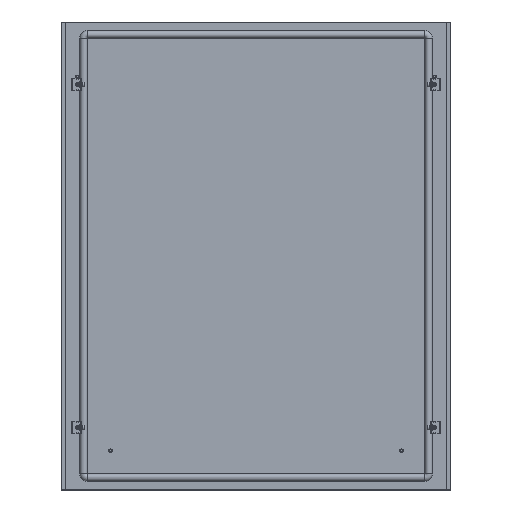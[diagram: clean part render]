
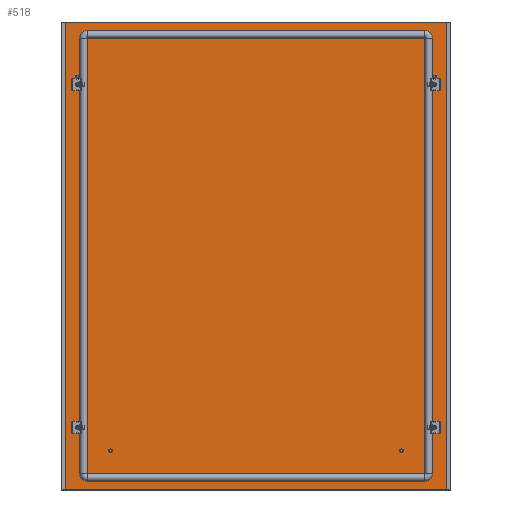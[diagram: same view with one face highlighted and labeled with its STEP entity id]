
A CAD part, top view. The second image highlights one B-rep face of the part: STEP entity #518.
In plain terms, the highlighted planar face has unit normal (0, 0, 1).
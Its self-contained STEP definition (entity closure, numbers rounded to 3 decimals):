
#226 = VERTEX_POINT('',#227);
#227 = CARTESIAN_POINT('',(395.5,-477.5,0.));
#260 = VERTEX_POINT('',#261);
#261 = CARTESIAN_POINT('',(395.5,477.5,0.));
#267 = EDGE_CURVE('',#226,#260,#268,.T.);
#268 = LINE('',#269,#270);
#269 = CARTESIAN_POINT('',(395.5,0.,0.));
#270 = VECTOR('',#271,1.);
#271 = DIRECTION('',(-0.,1.,-0.));
#360 = EDGE_CURVE('',#226,#361,#363,.T.);
#361 = VERTEX_POINT('',#362);
#362 = CARTESIAN_POINT('',(395.3,-477.5,0.));
#363 = LINE('',#364,#365);
#364 = CARTESIAN_POINT('',(0.,-477.5,0.
    ));
#365 = VECTOR('',#366,1.);
#366 = DIRECTION('',(-1.,0.,0.));
#385 = VERTEX_POINT('',#386);
#386 = CARTESIAN_POINT('',(-395.3,-477.5,0.));
#392 = EDGE_CURVE('',#393,#385,#395,.T.);
#393 = VERTEX_POINT('',#394);
#394 = CARTESIAN_POINT('',(-395.5,-477.5,0.));
#395 = LINE('',#396,#397);
#396 = CARTESIAN_POINT('',(0.,-477.5,0.
    ));
#397 = VECTOR('',#398,1.);
#398 = DIRECTION('',(1.,-0.,-0.));
#415 = VERTEX_POINT('',#416);
#416 = CARTESIAN_POINT('',(-395.5,477.5,0.));
#447 = EDGE_CURVE('',#415,#393,#448,.T.);
#448 = LINE('',#449,#450);
#449 = CARTESIAN_POINT('',(-395.5,0.,0.));
#450 = VECTOR('',#451,1.);
#451 = DIRECTION('',(0.,-1.,-0.));
#518 = ADVANCED_FACE('',(#519,#585,#605,#625,#636),#647,.F.);
#519 = FACE_BOUND('',#520,.T.);
#520 = EDGE_LOOP('',(#521,#529,#530,#531,#539,#547,#553,#554,#555,#563,
    #571,#579));
#521 = ORIENTED_EDGE('',*,*,#522,.F.);
#522 = EDGE_CURVE('',#415,#523,#525,.T.);
#523 = VERTEX_POINT('',#524);
#524 = CARTESIAN_POINT('',(-395.3,477.5,0.));
#525 = LINE('',#526,#527);
#526 = CARTESIAN_POINT('',(0.,477.5,0.)
  );
#527 = VECTOR('',#528,1.);
#528 = DIRECTION('',(1.,0.,0.));
#529 = ORIENTED_EDGE('',*,*,#447,.T.);
#530 = ORIENTED_EDGE('',*,*,#392,.T.);
#531 = ORIENTED_EDGE('',*,*,#532,.F.);
#532 = EDGE_CURVE('',#533,#385,#535,.T.);
#533 = VERTEX_POINT('',#534);
#534 = CARTESIAN_POINT('',(-395.3,-476.,0.));
#535 = LINE('',#536,#537);
#536 = CARTESIAN_POINT('',(-395.3,0.,
    0.));
#537 = VECTOR('',#538,1.);
#538 = DIRECTION('',(0.,-1.,0.));
#539 = ORIENTED_EDGE('',*,*,#540,.T.);
#540 = EDGE_CURVE('',#533,#541,#543,.T.);
#541 = VERTEX_POINT('',#542);
#542 = CARTESIAN_POINT('',(395.3,-476.,0.));
#543 = LINE('',#544,#545);
#544 = CARTESIAN_POINT('',(0.,-476.,0.)
  );
#545 = VECTOR('',#546,1.);
#546 = DIRECTION('',(1.,-0.,-0.));
#547 = ORIENTED_EDGE('',*,*,#548,.T.);
#548 = EDGE_CURVE('',#541,#361,#549,.T.);
#549 = LINE('',#550,#551);
#550 = CARTESIAN_POINT('',(395.3,-476.,0.));
#551 = VECTOR('',#552,1.);
#552 = DIRECTION('',(0.,-1.,-0.));
#553 = ORIENTED_EDGE('',*,*,#360,.F.);
#554 = ORIENTED_EDGE('',*,*,#267,.T.);
#555 = ORIENTED_EDGE('',*,*,#556,.T.);
#556 = EDGE_CURVE('',#260,#557,#559,.T.);
#557 = VERTEX_POINT('',#558);
#558 = CARTESIAN_POINT('',(395.3,477.5,0.));
#559 = LINE('',#560,#561);
#560 = CARTESIAN_POINT('',(0.,477.5,0.)
  );
#561 = VECTOR('',#562,1.);
#562 = DIRECTION('',(-1.,0.,-0.));
#563 = ORIENTED_EDGE('',*,*,#564,.F.);
#564 = EDGE_CURVE('',#565,#557,#567,.T.);
#565 = VERTEX_POINT('',#566);
#566 = CARTESIAN_POINT('',(395.3,476.,0.));
#567 = LINE('',#568,#569);
#568 = CARTESIAN_POINT('',(395.3,0.,
    0.));
#569 = VECTOR('',#570,1.);
#570 = DIRECTION('',(0.,1.,0.));
#571 = ORIENTED_EDGE('',*,*,#572,.T.);
#572 = EDGE_CURVE('',#565,#573,#575,.T.);
#573 = VERTEX_POINT('',#574);
#574 = CARTESIAN_POINT('',(-395.3,476.,0.));
#575 = LINE('',#576,#577);
#576 = CARTESIAN_POINT('',(0.,476.,0.)
  );
#577 = VECTOR('',#578,1.);
#578 = DIRECTION('',(-1.,0.,-0.));
#579 = ORIENTED_EDGE('',*,*,#580,.T.);
#580 = EDGE_CURVE('',#573,#523,#581,.T.);
#581 = LINE('',#582,#583);
#582 = CARTESIAN_POINT('',(-395.3,476.,0.));
#583 = VECTOR('',#584,1.);
#584 = DIRECTION('',(0.,1.,-0.));
#585 = FACE_BOUND('',#586,.T.);
#586 = EDGE_LOOP('',(#587,#598));
#587 = ORIENTED_EDGE('',*,*,#588,.F.);
#588 = EDGE_CURVE('',#589,#591,#593,.T.);
#589 = VERTEX_POINT('',#590);
#590 = CARTESIAN_POINT('',(-364.5,354.75,
    0.));
#591 = VERTEX_POINT('',#592);
#592 = CARTESIAN_POINT('',(-364.5,345.25,
    0.));
#593 = CIRCLE('',#594,4.75);
#594 = AXIS2_PLACEMENT_3D('',#595,#596,#597);
#595 = CARTESIAN_POINT('',(-364.5,350.,0.));
#596 = DIRECTION('',(0.,0.,1.));
#597 = DIRECTION('',(0.,1.,0.));
#598 = ORIENTED_EDGE('',*,*,#599,.F.);
#599 = EDGE_CURVE('',#591,#589,#600,.T.);
#600 = CIRCLE('',#601,4.75);
#601 = AXIS2_PLACEMENT_3D('',#602,#603,#604);
#602 = CARTESIAN_POINT('',(-364.5,350.,0.));
#603 = DIRECTION('',(0.,0.,1.));
#604 = DIRECTION('',(0.,1.,0.));
#605 = FACE_BOUND('',#606,.T.);
#606 = EDGE_LOOP('',(#607,#618));
#607 = ORIENTED_EDGE('',*,*,#608,.F.);
#608 = EDGE_CURVE('',#609,#611,#613,.T.);
#609 = VERTEX_POINT('',#610);
#610 = CARTESIAN_POINT('',(364.5,345.25,
    0.));
#611 = VERTEX_POINT('',#612);
#612 = CARTESIAN_POINT('',(364.5,354.75,
    0.));
#613 = CIRCLE('',#614,4.75);
#614 = AXIS2_PLACEMENT_3D('',#615,#616,#617);
#615 = CARTESIAN_POINT('',(364.5,350.,0.));
#616 = DIRECTION('',(0.,0.,1.));
#617 = DIRECTION('',(0.,-1.,0.));
#618 = ORIENTED_EDGE('',*,*,#619,.F.);
#619 = EDGE_CURVE('',#611,#609,#620,.T.);
#620 = CIRCLE('',#621,4.75);
#621 = AXIS2_PLACEMENT_3D('',#622,#623,#624);
#622 = CARTESIAN_POINT('',(364.5,350.,0.));
#623 = DIRECTION('',(0.,0.,1.));
#624 = DIRECTION('',(0.,-1.,0.));
#625 = FACE_BOUND('',#626,.T.);
#626 = EDGE_LOOP('',(#627));
#627 = ORIENTED_EDGE('',*,*,#628,.T.);
#628 = EDGE_CURVE('',#629,#629,#631,.T.);
#629 = VERTEX_POINT('',#630);
#630 = CARTESIAN_POINT('',(-364.5,-345.25,
    0.));
#631 = CIRCLE('',#632,4.75);
#632 = AXIS2_PLACEMENT_3D('',#633,#634,#635);
#633 = CARTESIAN_POINT('',(-364.5,-350.,0.));
#634 = DIRECTION('',(0.,0.,-1.));
#635 = DIRECTION('',(0.,1.,0.));
#636 = FACE_BOUND('',#637,.T.);
#637 = EDGE_LOOP('',(#638));
#638 = ORIENTED_EDGE('',*,*,#639,.T.);
#639 = EDGE_CURVE('',#640,#640,#642,.T.);
#640 = VERTEX_POINT('',#641);
#641 = CARTESIAN_POINT('',(364.5,-354.75,
    0.));
#642 = CIRCLE('',#643,4.75);
#643 = AXIS2_PLACEMENT_3D('',#644,#645,#646);
#644 = CARTESIAN_POINT('',(364.5,-350.,0.));
#645 = DIRECTION('',(-0.,0.,-1.));
#646 = DIRECTION('',(0.,-1.,0.));
#647 = PLANE('',#648);
#648 = AXIS2_PLACEMENT_3D('',#649,#650,#651);
#649 = CARTESIAN_POINT('',(0.,0.,0.));
#650 = DIRECTION('',(0.,0.,-1.));
#651 = DIRECTION('',(-1.,0.,0.));
